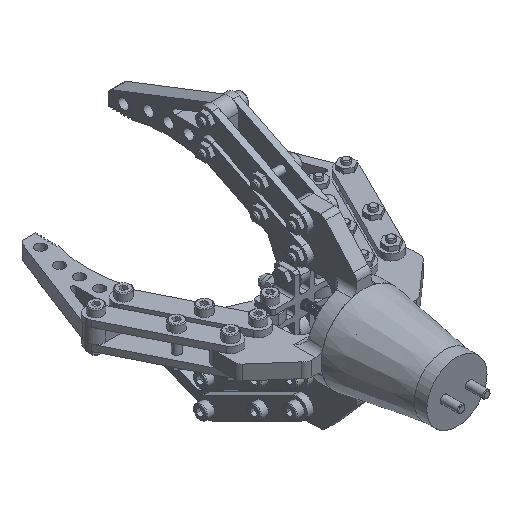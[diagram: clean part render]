
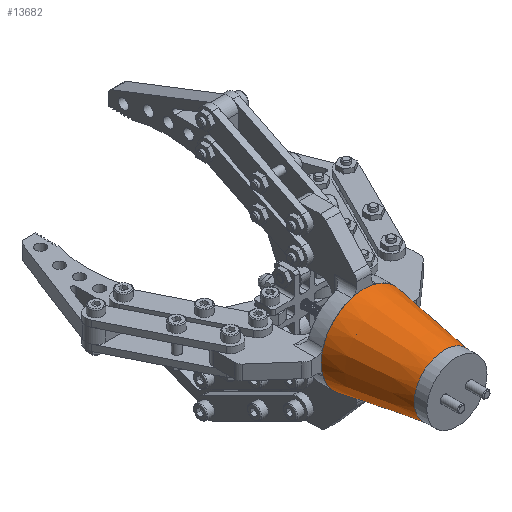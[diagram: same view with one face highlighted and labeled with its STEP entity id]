
A CAD part, isometric view. The second image highlights one B-rep face of the part: STEP entity #13682.
In plain terms, the highlighted conical face has half-angle 9.055 degrees and reference radius 14.55 mm.
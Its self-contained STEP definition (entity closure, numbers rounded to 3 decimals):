
#658=CONICAL_SURFACE('',#15421,14.55,0.158);
#2013=FACE_OUTER_BOUND('',#2831,.T.);
#2831=EDGE_LOOP('',(#11899,#11900,#11901,#11902,#11903));
#3733=LINE('',#23791,#4716);
#4716=VECTOR('',#19061,14.55);
#5735=CIRCLE('',#15398,12.);
#5736=CIRCLE('',#15399,12.);
#5747=CIRCLE('',#15422,17.1);
#6781=VERTEX_POINT('',#23738);
#6782=VERTEX_POINT('',#23740);
#6797=VERTEX_POINT('',#23789);
#8533=EDGE_CURVE('',#6782,#6781,#5735,.T.);
#8534=EDGE_CURVE('',#6781,#6782,#5736,.T.);
#8555=EDGE_CURVE('',#6797,#6797,#5747,.T.);
#8556=EDGE_CURVE('',#6797,#6782,#3733,.T.);
#11899=ORIENTED_EDGE('',*,*,#8555,.F.);
#11900=ORIENTED_EDGE('',*,*,#8556,.T.);
#11901=ORIENTED_EDGE('',*,*,#8533,.T.);
#11902=ORIENTED_EDGE('',*,*,#8534,.T.);
#11903=ORIENTED_EDGE('',*,*,#8556,.F.);
#13682=ADVANCED_FACE('',(#2013),#658,.T.);
#15398=AXIS2_PLACEMENT_3D('',#23741,#19001,#19002);
#15399=AXIS2_PLACEMENT_3D('',#23742,#19003,#19004);
#15421=AXIS2_PLACEMENT_3D('',#23788,#19057,#19058);
#15422=AXIS2_PLACEMENT_3D('',#23790,#19059,#19060);
#19001=DIRECTION('center_axis',(0.,0.,-1.));
#19002=DIRECTION('ref_axis',(1.,0.,0.));
#19003=DIRECTION('center_axis',(0.,0.,-1.));
#19004=DIRECTION('ref_axis',(1.,0.,0.));
#19057=DIRECTION('center_axis',(0.,0.,-1.));
#19058=DIRECTION('ref_axis',(-1.,0.,0.));
#19059=DIRECTION('center_axis',(0.,0.,-1.));
#19060=DIRECTION('ref_axis',(1.,0.,0.));
#19061=DIRECTION('',(-0.157,0.,0.988));
#23738=CARTESIAN_POINT('',(-12.,0.,32.));
#23740=CARTESIAN_POINT('',(12.,0.,32.));
#23741=CARTESIAN_POINT('Origin',(0.,0.,32.));
#23742=CARTESIAN_POINT('Origin',(0.,0.,32.));
#23788=CARTESIAN_POINT('Origin',(0.,0.,16.));
#23789=CARTESIAN_POINT('',(17.1,0.,0.));
#23790=CARTESIAN_POINT('Origin',(0.,0.,0.));
#23791=CARTESIAN_POINT('',(14.55,0.,16.));
